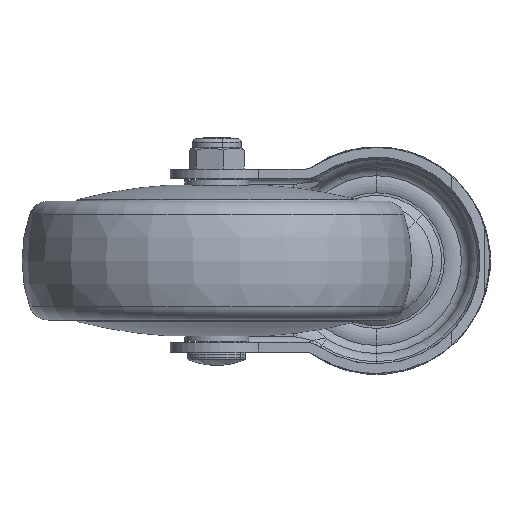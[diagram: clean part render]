
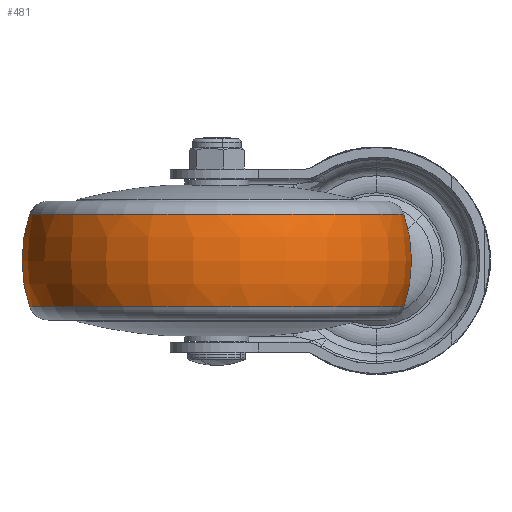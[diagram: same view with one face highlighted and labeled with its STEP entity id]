
A CAD part, front view. The second image highlights one B-rep face of the part: STEP entity #481.
In plain terms, the highlighted toroidal (fillet/blend) face has major radius 13.113 mm and minor radius 36.887 mm.
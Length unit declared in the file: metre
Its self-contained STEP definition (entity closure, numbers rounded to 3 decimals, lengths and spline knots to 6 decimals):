
#136 = EDGE_CURVE ( 'NONE', #5014, #10924, #11048, .T. ) ;
#481 = ADVANCED_FACE ( 'NONE', ( #7100 ), #8169, .T. ) ;
#759 = AXIS2_PLACEMENT_3D ( 'NONE', #799, #4266, #11119 ) ;
#799 = CARTESIAN_POINT ( 'NONE',  ( -0.041, -0.083426, 0.011857 ) ) ;
#913 = AXIS2_PLACEMENT_3D ( 'NONE', #6789, #10274, #8580 ) ;
#925 = CARTESIAN_POINT ( 'NONE',  ( -0.041, -0.083426, 0. ) ) ;
#2050 = AXIS2_PLACEMENT_3D ( 'NONE', #925, #4342, #4574 ) ;
#2203 = CARTESIAN_POINT ( 'NONE',  ( 0.007042, -0.083426, -0.011857 ) ) ;
#2700 = ORIENTED_EDGE ( 'NONE', *, *, #9641, .F. ) ;
#2833 = CARTESIAN_POINT ( 'NONE',  ( -0.089042, -0.083426, 0.011857 ) ) ;
#2956 = AXIS2_PLACEMENT_3D ( 'NONE', #4210, #6013, #11117 ) ;
#3812 = ORIENTED_EDGE ( 'NONE', *, *, #136, .T. ) ;
#4210 = CARTESIAN_POINT ( 'NONE',  ( -0.054113, -0.083426, 0. ) ) ;
#4266 = DIRECTION ( 'NONE',  ( 0., 0., 1. ) ) ;
#4342 = DIRECTION ( 'NONE',  ( 0., 0., 1. ) ) ;
#4541 = ORIENTED_EDGE ( 'NONE', *, *, #4691, .T. ) ;
#4574 = DIRECTION ( 'NONE',  ( 1., 0., 0. ) ) ;
#4691 = EDGE_CURVE ( 'NONE', #8763, #5014, #5455, .T. ) ;
#5014 = VERTEX_POINT ( 'NONE', #2203 ) ;
#5370 = CARTESIAN_POINT ( 'NONE',  ( -0.027887, -0.083426, 0. ) ) ;
#5455 = CIRCLE ( 'NONE', #913, 0.048042 ) ;
#6013 = DIRECTION ( 'NONE',  ( 0., 1., 0. ) ) ;
#6438 = CARTESIAN_POINT ( 'NONE',  ( 0.007042, -0.083426, 0.011857 ) ) ;
#6458 = VERTEX_POINT ( 'NONE', #2833 ) ;
#6730 = CIRCLE ( 'NONE', #759, 0.048042 ) ;
#6742 = AXIS2_PLACEMENT_3D ( 'NONE', #5370, #7999, #10542 ) ;
#6789 = CARTESIAN_POINT ( 'NONE',  ( -0.041, -0.083426, -0.011857 ) ) ;
#7100 = FACE_OUTER_BOUND ( 'NONE', #10545, .T. ) ;
#7803 = CIRCLE ( 'NONE', #2956, 0.036887 ) ;
#7999 = DIRECTION ( 'NONE',  ( 0., -1., 0. ) ) ;
#8022 = CARTESIAN_POINT ( 'NONE',  ( -0.089042, -0.083426, -0.011857 ) ) ;
#8169 = TOROIDAL_SURFACE ( 'NONE', #2050, 0.013113, 0.036887 ) ;
#8580 = DIRECTION ( 'NONE',  ( 1., 0., 0. ) ) ;
#8584 = EDGE_CURVE ( 'NONE', #8763, #6458, #7803, .T. ) ;
#8763 = VERTEX_POINT ( 'NONE', #8022 ) ;
#9503 = ORIENTED_EDGE ( 'NONE', *, *, #8584, .F. ) ;
#9641 = EDGE_CURVE ( 'NONE', #6458, #10924, #6730, .T. ) ;
#10274 = DIRECTION ( 'NONE',  ( 0., 0., 1. ) ) ;
#10542 = DIRECTION ( 'NONE',  ( 0., 0., -1. ) ) ;
#10545 = EDGE_LOOP ( 'NONE', ( #9503, #4541, #3812, #2700 ) ) ;
#10924 = VERTEX_POINT ( 'NONE', #6438 ) ;
#11048 = CIRCLE ( 'NONE', #6742, 0.036887 ) ;
#11117 = DIRECTION ( 'NONE',  ( -1., 0., 0. ) ) ;
#11119 = DIRECTION ( 'NONE',  ( 1., 0., 0. ) ) ;
